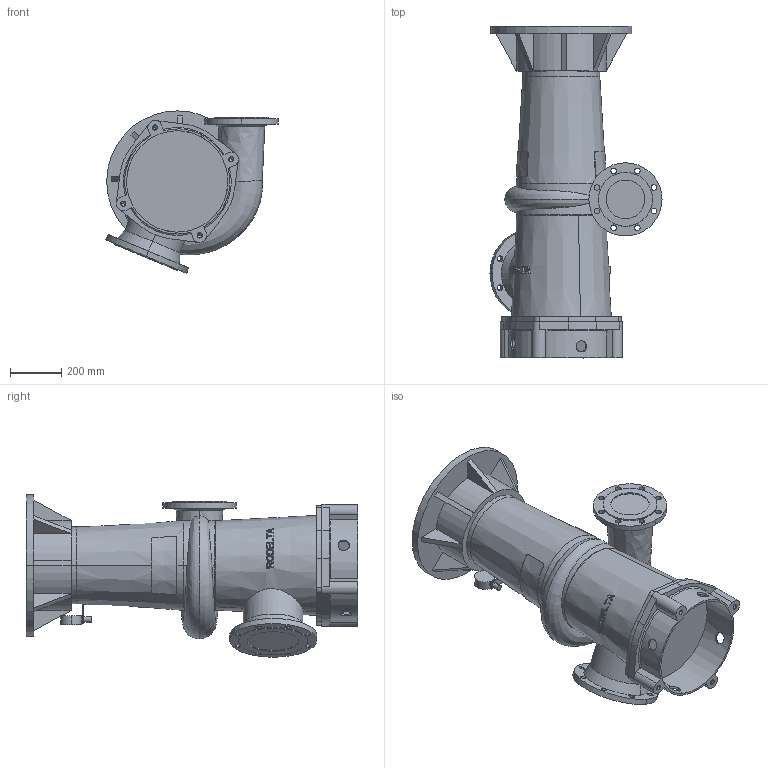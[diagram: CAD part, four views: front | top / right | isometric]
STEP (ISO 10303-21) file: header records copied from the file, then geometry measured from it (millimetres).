
FILE_DESCRIPTION((''),'2;1');
FILE_NAME('7410_VOOR_BLAD_ASM','2024-07-24T',('Lyritlocal'),(''),'PRO/ENGINEER BY PARAMETRIC TECHNOLOGY CORPORATION, 2016360','PRO/ENGINEER BY PARAMETRIC TECHNOLOGY CORPORATION, 2016360','');
FILE_SCHEMA(('CONFIG_CONTROL_DESIGN'));
Length unit declared in the file: millimetre
Products named in the file (3): 7410; 7410_VOET; 7410_VOOR_BLAD_ASM
Assembly tree (2 placements, depth 2):
  7410_VOOR_BLAD_ASM
    7410
    7410_VOET
Bounding box: 670.49 x 1292 x 632 mm (x, y, z)
Volume: 142858668 mm3; surface area: 3346063.5 mm2
Topology: 2 solids, 6 shells, 554 faces, 1491 edges, 983 vertices
Faces by surface type: plane 368, cylinder 138, cone 38, bspline 6, torus 4
Entity records: 19705 total; most frequent: CARTESIAN_POINT 6220, ORIENTED_EDGE 2950, DIRECTION 2529, EDGE_CURVE 1483, VERTEX_POINT 983, AXIS2_PLACEMENT_3D 961, EDGE_LOOP 646, VECTOR 607
